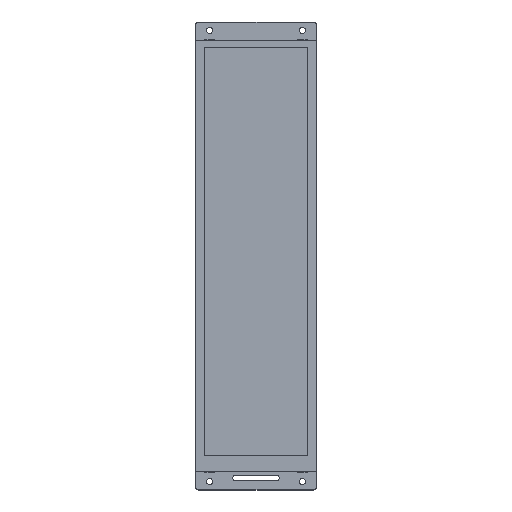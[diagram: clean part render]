
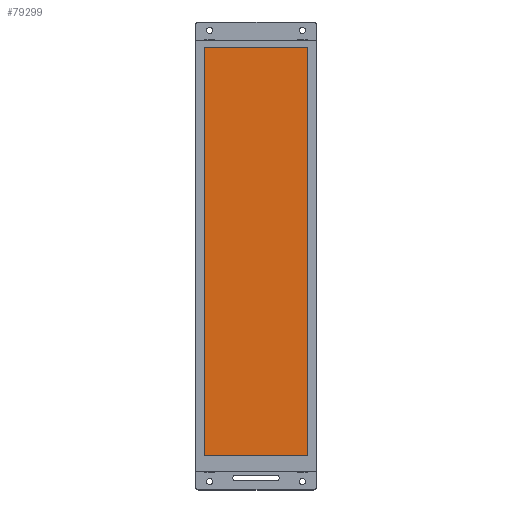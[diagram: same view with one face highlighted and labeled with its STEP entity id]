
A CAD part, top view. The second image highlights one B-rep face of the part: STEP entity #79299.
In plain terms, the highlighted planar face has unit normal (0, 0, 1) as drawn and (0, -1, 0) by its records, which use the part's own axes.
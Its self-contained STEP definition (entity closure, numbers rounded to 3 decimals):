
#78773=DIRECTION('',(1.,0.,0.));
#78774=VECTOR('',#78773,219.68);
#78775=CARTESIAN_POINT('',(-107.64,0.2,27.76));
#78776=LINE('',#78775,#78774);
#78777=DIRECTION('',(0.,0.,-1.));
#78778=VECTOR('',#78777,55.52);
#78779=CARTESIAN_POINT('',(112.04,0.2,27.76));
#78780=LINE('',#78779,#78778);
#78781=DIRECTION('',(-1.,0.,0.));
#78782=VECTOR('',#78781,219.68);
#78783=CARTESIAN_POINT('',(112.04,0.2,-27.76));
#78784=LINE('',#78783,#78782);
#78785=DIRECTION('',(0.,0.,1.));
#78786=VECTOR('',#78785,55.52);
#78787=CARTESIAN_POINT('',(-107.64,0.2,-27.76));
#78788=LINE('',#78787,#78786);
#78861=CARTESIAN_POINT('',(112.04,0.2,27.76));
#78862=VERTEX_POINT('',#78861);
#78863=CARTESIAN_POINT('',(-107.64,0.2,27.76));
#78864=VERTEX_POINT('',#78863);
#78865=CARTESIAN_POINT('',(112.04,0.2,-27.76));
#78866=VERTEX_POINT('',#78865);
#78867=CARTESIAN_POINT('',(-107.64,0.2,-27.76));
#78868=VERTEX_POINT('',#78867);
#79288=CARTESIAN_POINT('',(0.,0.2,0.));
#79289=DIRECTION('',(0.,-1.,0.));
#79290=DIRECTION('',(1.,0.,0.));
#79291=AXIS2_PLACEMENT_3D('',#79288,#79289,#79290);
#79292=PLANE('',#79291);
#79293=ORIENTED_EDGE('',*,*,#79240,.T.);
#79294=ORIENTED_EDGE('',*,*,#79255,.T.);
#79295=ORIENTED_EDGE('',*,*,#79269,.T.);
#79296=ORIENTED_EDGE('',*,*,#79282,.T.);
#79297=EDGE_LOOP('',(#79293,#79294,#79295,#79296));
#79298=FACE_OUTER_BOUND('',#79297,.F.);
#79240=EDGE_CURVE('',#78864,#78862,#78776,.T.);
#79255=EDGE_CURVE('',#78862,#78866,#78780,.T.);
#79269=EDGE_CURVE('',#78866,#78868,#78784,.T.);
#79282=EDGE_CURVE('',#78868,#78864,#78788,.T.);
#79299=ADVANCED_FACE('',(#79298),#79292,.T.);
